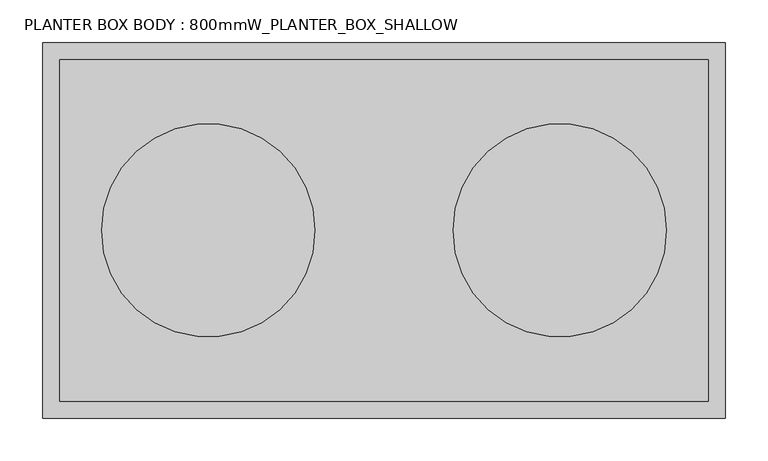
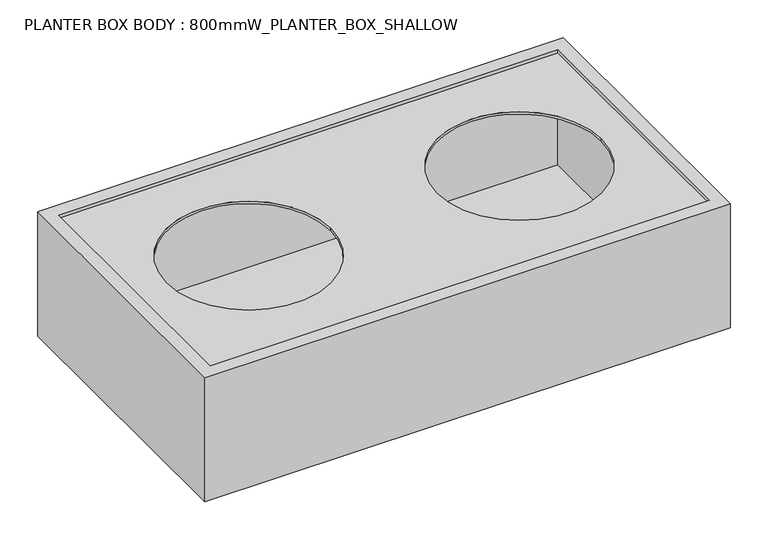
"""IFC4 building model written with IfcOpenShell, lengths in millimetres: furniture geometry, PLANTER BOX BODY : 800mmW_PLANTER_BOX_SHALLOW."""

from ifc_helpers import new_model, si_unit, point, frame, frame_2d, origin, place, context, project, spatial, polyline, circle_curve, trimmed, segment, composite_curve, outline, extrude, source, transform, mapped, element, save


def planter_box_body_800mmw_planter_box_shallow_70cc7f4c(model_context):
    return source(origin(), model_context, "Body", "SweptSolid", [
        extrude(outline(polyline([(400.0, -220.0), (-400.0, -220.0), (-400.0, 220.0), (400.0, 220.0), (400.0, -220.0)]), holes=[polyline([(-380.0, -200.0), (380.0, -200.0), (380.0, 200.0), (-380.0, 200.0), (-380.0, -200.0)])]), frame((0.0, 0.0, 195.0), z_axis=(0.0, 0.0, 1.0), x_axis=(1.0, 0.0, 0.0)), (0.0, 0.0, 1.0), 200.0),
        extrude(outline(polyline([(380.0, -200.0), (-380.0, -200.0), (-380.0, 200.0), (380.0, 200.0), (380.0, -200.0)])), frame((0.0, 0.0, 195.0), z_axis=(0.0, 0.0, 1.0), x_axis=(1.0, 0.0, 0.0)), (0.0, 0.0, 1.0), 15.0),
        extrude(outline(polyline([(380.0, -200.0), (-380.0, -200.0), (-380.0, 200.0), (380.0, 200.0), (380.0, -200.0)]), holes=[composite_curve([segment(trimmed(circle_curve(frame_2d((-206.0, 0.0)), 125.0), [point((-331.0, 0.0))], [point((-81.0, 0.0))], True, "CARTESIAN"), True, "CONTINUOUS"), segment(trimmed(circle_curve(frame_2d((-206.0, 0.0)), 125.0), [point((-81.0, 0.0))], [point((-331.0, 0.0))], True, "CARTESIAN"), True, "CONTINUOUS")], self_intersect=False), composite_curve([segment(trimmed(circle_curve(frame_2d((206.0, 0.0)), 125.0), [point((81.0, 0.0))], [point((331.0, 0.0))], True, "CARTESIAN"), True, "CONTINUOUS"), segment(trimmed(circle_curve(frame_2d((206.0, 0.0)), 125.0), [point((331.0, 0.0))], [point((81.0, 0.0))], True, "CARTESIAN"), True, "CONTINUOUS")], self_intersect=False)]), frame((0.0, 0.0, 386.4363245), z_axis=(0.0, 0.0, 1.0), x_axis=(1.0, 0.0, 0.0)), (0.0, 0.0, 1.0), 3.5636755),
    ])


if __name__ == "__main__":
    model = new_model("IFC4")
    model_context = context("Model", 3, world=origin())
    ifc_project = project(units=[si_unit("LENGTHUNIT", "METRE", prefix="MILLI")], contexts=[model_context])
    site = spatial("IfcSite", under=ifc_project)
    building = spatial("IfcBuilding", under=site)
    placement = place(None, origin())
    planter_box_body_800mmw_planter_box_shallow_shape = planter_box_body_800mmw_planter_box_shallow_70cc7f4c(model_context)
    element("IfcFurniture", 1, ObjectType="PLANTER BOX BODY : 800mmW_PLANTER_BOX_SHALLOW", at=placement, inside=building, context=model_context, shape_type="MappedRepresentation", body=[
        mapped(planter_box_body_800mmw_planter_box_shallow_shape, transform((0.0, 0.0, 0.0), x_axis=(1.0, 0.0, 0.0), y_axis=(0.0, 1.0, 0.0), z_axis=(0.0, 0.0, 1.0))),
    ])
    save(model, "model.ifc")
